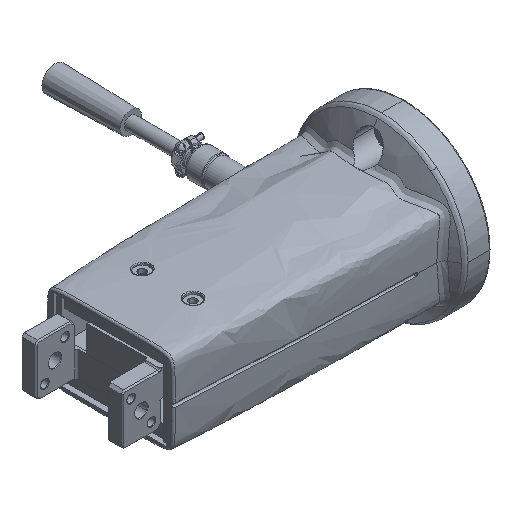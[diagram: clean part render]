
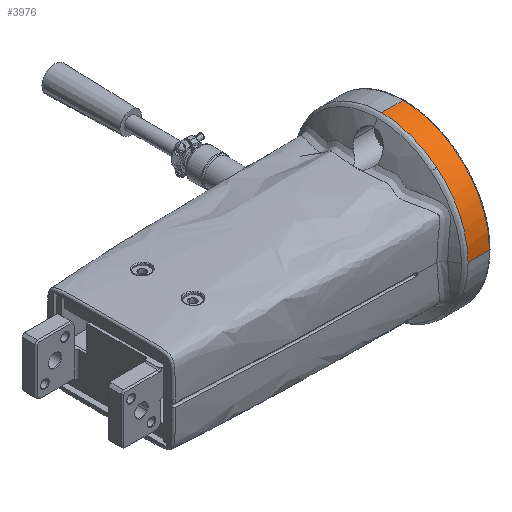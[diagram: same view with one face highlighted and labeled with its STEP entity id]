
A CAD part, isometric view. The second image highlights one B-rep face of the part: STEP entity #3976.
In plain terms, the highlighted free-form (B-spline) face has degree [2, 1] with [3, 2] control points.
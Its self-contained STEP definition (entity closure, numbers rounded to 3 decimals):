
#251=CARTESIAN_POINT('Vertex',(-2.926,-34.,0.)) ;
#255=CARTESIAN_POINT('Control Point',(-2.926,-34.,0.)) ;
#256=CARTESIAN_POINT('Control Point',(-2.926,-34.,15.992)) ;
#257=CARTESIAN_POINT('Control Point',(-2.926,-21.682,26.19)) ;
#258=CARTESIAN_POINT('Vertex',(-2.926,-21.682,26.19)) ;
#3785=CARTESIAN_POINT('Control Point',(-2.926,-21.682,26.19)) ;
#3786=CARTESIAN_POINT('Control Point',(-2.926,-12.248,34.)) ;
#3787=CARTESIAN_POINT('Control Point',(-2.926,0.,34.)) ;
#3788=CARTESIAN_POINT('Vertex',(-2.926,0.,34.)) ;
#3917=CARTESIAN_POINT('Control Point',(5.5,-34.,0.)) ;
#3918=CARTESIAN_POINT('Control Point',(-2.926,-34.,0.)) ;
#3919=CARTESIAN_POINT('Vertex',(5.5,-34.,0.)) ;
#3944=CARTESIAN_POINT('Control Point',(6.524,-34.,0.)) ;
#3945=CARTESIAN_POINT('Control Point',(-3.949,-34.,0.)) ;
#3946=CARTESIAN_POINT('Control Point',(6.524,-34.,34.)) ;
#3947=CARTESIAN_POINT('Control Point',(-3.949,-34.,34.)) ;
#3948=CARTESIAN_POINT('Control Point',(6.524,0.,34.)) ;
#3949=CARTESIAN_POINT('Control Point',(-3.949,0.,34.)) ;
#3951=CARTESIAN_POINT('Control Point',(5.5,-34.,0.)) ;
#3952=CARTESIAN_POINT('Control Point',(5.5,-34.,0.165)) ;
#3953=CARTESIAN_POINT('Control Point',(5.5,-33.998,0.33)) ;
#3954=CARTESIAN_POINT('Vertex',(5.5,-33.998,0.33)) ;
#3958=CARTESIAN_POINT('Control Point',(5.5,-33.998,0.33)) ;
#3959=CARTESIAN_POINT('Control Point',(5.5,-33.672,34.)) ;
#3960=CARTESIAN_POINT('Control Point',(5.5,0.,34.)) ;
#3961=CARTESIAN_POINT('Vertex',(5.5,0.,34.)) ;
#3965=CARTESIAN_POINT('Control Point',(5.5,0.,34.)) ;
#3966=CARTESIAN_POINT('Control Point',(-2.926,0.,34.)) ;
#3969=ORIENTED_EDGE('',*,*,#3921,.F.) ;
#3970=ORIENTED_EDGE('',*,*,#3956,.T.) ;
#3971=ORIENTED_EDGE('',*,*,#3963,.T.) ;
#3972=ORIENTED_EDGE('',*,*,#3967,.F.) ;
#3973=ORIENTED_EDGE('',*,*,#3790,.T.) ;
#3974=ORIENTED_EDGE('',*,*,#260,.T.) ;
#3976=ADVANCED_FACE('brep_1',(#3975),#3943,.T.) ;
#260=EDGE_CURVE('',#259,#252,#254,.F.) ;
#3790=EDGE_CURVE('',#3789,#259,#3784,.F.) ;
#3921=EDGE_CURVE('',#3920,#252,#3916,.T.) ;
#3956=EDGE_CURVE('',#3920,#3955,#3950,.T.) ;
#3963=EDGE_CURVE('',#3955,#3962,#3957,.T.) ;
#3967=EDGE_CURVE('',#3789,#3962,#3964,.F.) ;
#3968=EDGE_LOOP('',(#3969,#3970,#3971,#3972,#3973,#3974)) ;
#3975=FACE_OUTER_BOUND('',#3968,.T.) ;
#252=VERTEX_POINT('',#251) ;
#259=VERTEX_POINT('',#258) ;
#3789=VERTEX_POINT('',#3788) ;
#3920=VERTEX_POINT('',#3919) ;
#3955=VERTEX_POINT('',#3954) ;
#3962=VERTEX_POINT('',#3961) ;
#254=(BOUNDED_CURVE()B_SPLINE_CURVE(2,(#255,#256,#257),.UNSPECIFIED.,.F.,.U.)B_SPLINE_CURVE_WITH_KNOTS((3,3),(157.456,193.333),.UNSPECIFIED.)CURVE()GEOMETRIC_REPRESENTATION_ITEM()RATIONAL_B_SPLINE_CURVE((0.855,0.837,1.))REPRESENTATION_ITEM('')) ;
#3784=(BOUNDED_CURVE()B_SPLINE_CURVE(2,(#3785,#3786,#3787),.UNSPECIFIED.,.F.,.U.)B_SPLINE_CURVE_WITH_KNOTS((3,3),(193.333,221.901),.UNSPECIFIED.)CURVE()GEOMETRIC_REPRESENTATION_ITEM()RATIONAL_B_SPLINE_CURVE((1.,0.87,0.855))REPRESENTATION_ITEM('')) ;
#3916=(BOUNDED_CURVE()B_SPLINE_CURVE(1,(#3917,#3918),.UNSPECIFIED.,.F.,.U.)B_SPLINE_CURVE_WITH_KNOTS((2,2),(1.024,9.449),.UNSPECIFIED.)CURVE()GEOMETRIC_REPRESENTATION_ITEM()RATIONAL_B_SPLINE_CURVE((1.,1.))REPRESENTATION_ITEM('')) ;
#3950=(BOUNDED_CURVE()B_SPLINE_CURVE(2,(#3951,#3952,#3953),.UNSPECIFIED.,.F.,.U.)B_SPLINE_CURVE_WITH_KNOTS((3,3),(136.,136.466),.UNSPECIFIED.)CURVE()GEOMETRIC_REPRESENTATION_ITEM()RATIONAL_B_SPLINE_CURVE((1.,0.998,0.996))REPRESENTATION_ITEM('')) ;
#3957=(BOUNDED_CURVE()B_SPLINE_CURVE(2,(#3958,#3959,#3960),.UNSPECIFIED.,.F.,.U.)B_SPLINE_CURVE_WITH_KNOTS((3,3),(136.466,204.),.UNSPECIFIED.)CURVE()GEOMETRIC_REPRESENTATION_ITEM()RATIONAL_B_SPLINE_CURVE((0.996,0.709,1.))REPRESENTATION_ITEM('')) ;
#3964=(BOUNDED_CURVE()B_SPLINE_CURVE(1,(#3965,#3966),.UNSPECIFIED.,.F.,.U.)B_SPLINE_CURVE_WITH_KNOTS((2,2),(1.024,9.449),.UNSPECIFIED.)CURVE()GEOMETRIC_REPRESENTATION_ITEM()RATIONAL_B_SPLINE_CURVE((1.,1.))REPRESENTATION_ITEM('')) ;
#3943=(BOUNDED_SURFACE()B_SPLINE_SURFACE(2,1,((#3944,#3945),(#3946,#3947),(#3948,#3949)),.UNSPECIFIED.,.F.,.F.,.U.)B_SPLINE_SURFACE_WITH_KNOTS((3,3),(2,2),(136.,204.),(0.,10.473),.UNSPECIFIED.)GEOMETRIC_REPRESENTATION_ITEM()RATIONAL_B_SPLINE_SURFACE(((1.,1.),(0.707,0.707),(1.,1.)))REPRESENTATION_ITEM('Rational BSpline Surface')SURFACE()) ;
